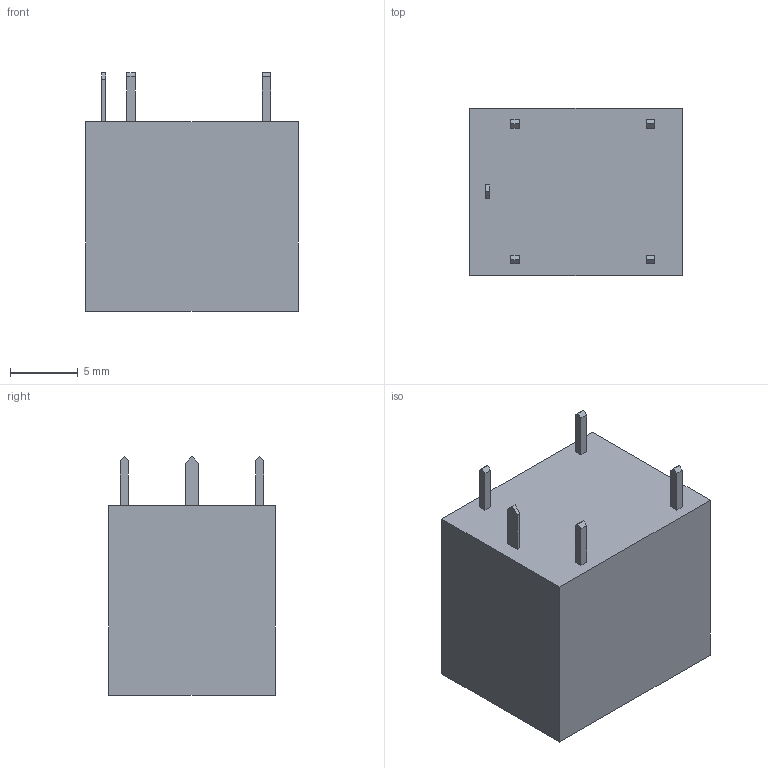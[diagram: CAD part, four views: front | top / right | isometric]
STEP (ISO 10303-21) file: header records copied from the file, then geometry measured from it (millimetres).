
FILE_DESCRIPTION(('FreeCAD Model'),'2;1');
FILE_NAME('C:/Users/Jane Koetz/Desktop/MAD.stp','2020-05-21T13:10:08',( 'VKV'),('Metaltex'),'Open CASCADE STEP processor 7.3','FreeCAD', 'Unknown');
FILE_SCHEMA(('AUTOMOTIVE_DESIGN { 1 0 10303 214 1 1 1 1 }'));
Length unit declared in the file: millimetre
Products named in the file (1): MAD
Bounding box: 15.7 x 12.3 x 17.6 mm (x, y, z)
Volume: 2709.5 mm3; surface area: 1211.9 mm2
Topology: 1 solids, 1 shells, 41 faces, 102 edges, 68 vertices
Faces by surface type: plane 41
Entity records: 1217 total; most frequent: CARTESIAN_POINT 212, ORIENTED_EDGE 204, DIRECTION 186, EDGE_CURVE 102, LINE 102, VECTOR 102, VERTEX_POINT 68, FACE_BOUND 46
